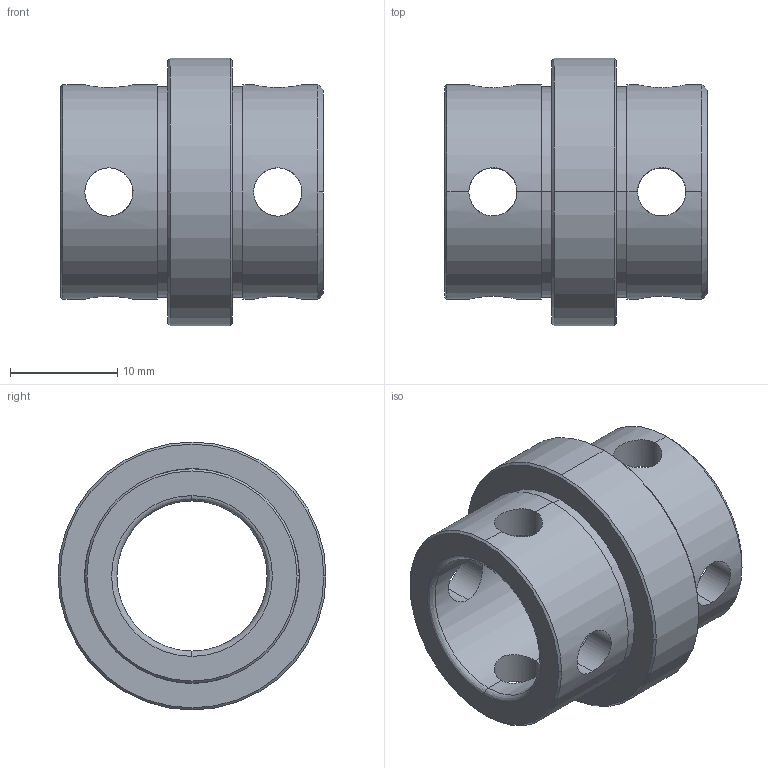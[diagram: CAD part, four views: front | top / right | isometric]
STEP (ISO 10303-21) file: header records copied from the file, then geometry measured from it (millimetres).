
FILE_DESCRIPTION (( 'STEP AP203' ), '1' );
FILE_NAME ('020 Bague de Guidage.STEP', '2021-10-27T18:24:39', ( '' ), ( '' ), 'SwSTEP 2.0', 'SolidWorks 2019', '' );
FILE_SCHEMA (( 'CONFIG_CONTROL_DESIGN' ));
Length unit declared in the file: millimetre
Products named in the file (1): 020 Bague de Guidage
Bounding box: 24.5 x 25 x 25 mm (x, y, z)
Volume: 4555.5 mm3; surface area: 3454.5 mm2
Topology: 1 solids, 1 shells, 46 faces, 126 edges, 78 vertices
Faces by surface type: cylinder 28, bspline 12, plane 6
Entity records: 2499 total; most frequent: CARTESIAN_POINT 1295, ORIENTED_EDGE 252, DIRECTION 212, EDGE_CURVE 126, AXIS2_PLACEMENT_3D 83, VERTEX_POINT 78, EDGE_LOOP 60, CIRCLE 48
